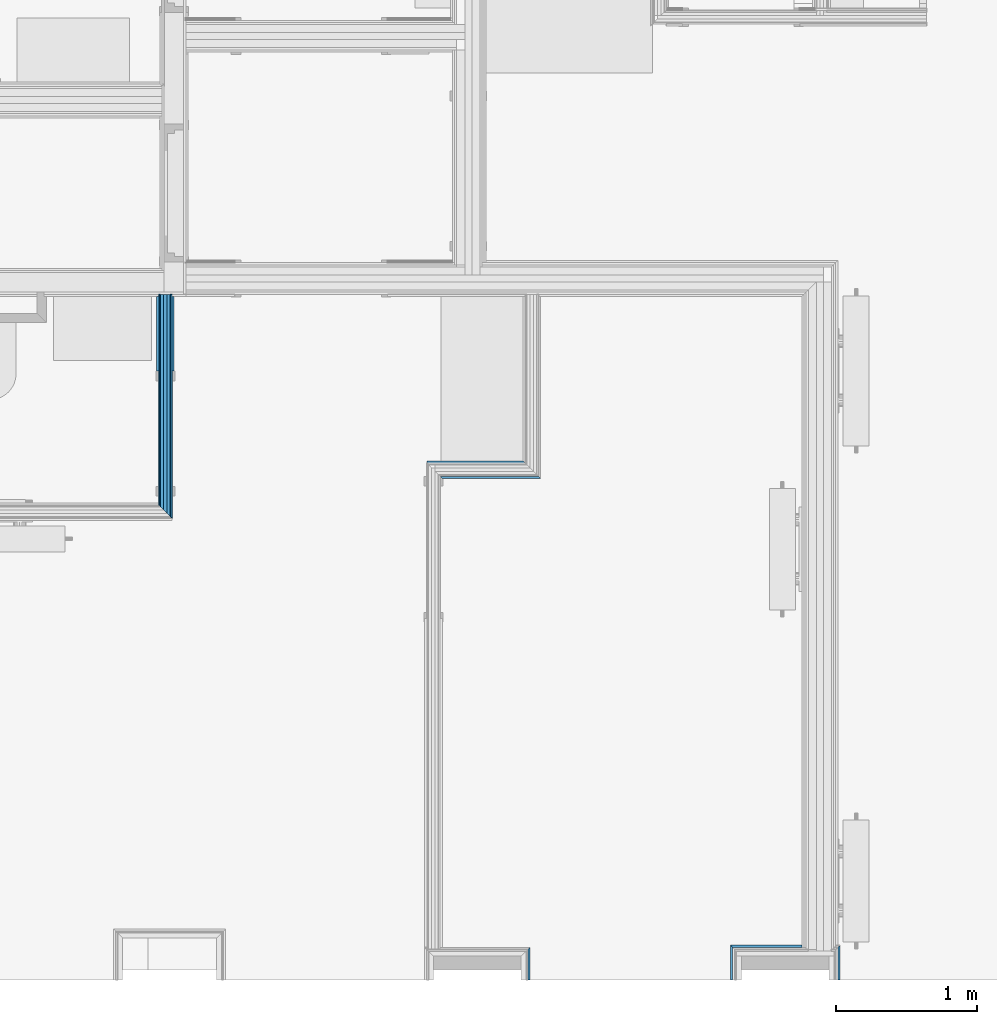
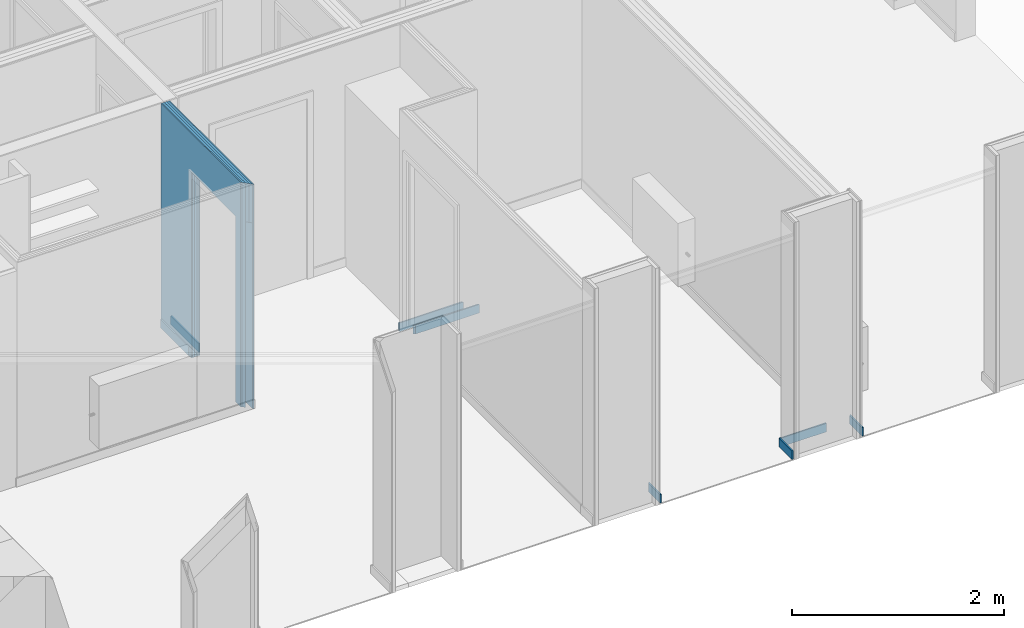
# One storey, part 37 of 85: 13 building element parts, 1 opening, 6 elements without a shape of their own.
"""IFC2X3 building model written with IfcOpenShell, lengths in metres."""

from ifc_helpers import new_model, entity, si_unit, converted_unit, derived_unit, money_unit, direction, frame, frame_2d, origin_with_axes, place, context, subcontext, project, spatial, polyline, rectangle, outline, extrude, material, type_object, element, aggregate, save


model = new_model("IFC2X3")

# Units and contexts
model_context = context("Model", 3, precision=1e-05, world=origin_with_axes(), true_north=direction((0.0, 1.0)))
body_context = subcontext(model_context, "Body", "Model", "MODEL_VIEW", scale=1.0)
ifc_project = project(units=[si_unit("LENGTHUNIT", "METRE"), si_unit("AREAUNIT", "SQUARE_METRE"), si_unit("VOLUMEUNIT", "CUBIC_METRE"), si_unit("ABSORBEDDOSEUNIT", "GRAY"), si_unit("AMOUNTOFSUBSTANCEUNIT", "MOLE"), si_unit("DOSEEQUIVALENTUNIT", "SIEVERT"), si_unit("ELECTRICCAPACITANCEUNIT", "FARAD"), si_unit("ELECTRICCHARGEUNIT", "COULOMB"), si_unit("ELECTRICCONDUCTANCEUNIT", "SIEMENS"), si_unit("ELECTRICCURRENTUNIT", "AMPERE"), si_unit("ELECTRICRESISTANCEUNIT", "OHM"), si_unit("ELECTRICVOLTAGEUNIT", "VOLT"), si_unit("ENERGYUNIT", "JOULE"), si_unit("FORCEUNIT", "NEWTON"), si_unit("FREQUENCYUNIT", "HERTZ"), si_unit("ILLUMINANCEUNIT", "LUX"), si_unit("INDUCTANCEUNIT", "HENRY"), si_unit("LUMINOUSFLUXUNIT", "LUMEN"), si_unit("LUMINOUSINTENSITYUNIT", "CANDELA"), si_unit("MAGNETICFLUXDENSITYUNIT", "TESLA"), si_unit("MAGNETICFLUXUNIT", "WEBER"), si_unit("MASSUNIT", "GRAM"), converted_unit("PLANEANGLEUNIT", "degree", entity("IfcReal", 0.0174532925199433), si_unit("PLANEANGLEUNIT", "RADIAN"), dimensions=[0, 0, 0, 0, 0, 0, 0]), si_unit("POWERUNIT", "WATT"), si_unit("PRESSUREUNIT", "PASCAL"), si_unit("RADIOACTIVITYUNIT", "BECQUEREL"), si_unit("SOLIDANGLEUNIT", "STERADIAN"), si_unit("THERMODYNAMICTEMPERATUREUNIT", "KELVIN"), si_unit("TIMEUNIT", "SECOND"), derived_unit("ACCELERATIONUNIT", [(si_unit("LENGTHUNIT", "METRE"), 1), (si_unit("TIMEUNIT", "SECOND"), -2)]), derived_unit("ANGULARVELOCITYUNIT", [(converted_unit("PLANEANGLEUNIT", "degree", entity("IfcReal", 0.0174532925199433), si_unit("PLANEANGLEUNIT", "RADIAN"), dimensions=[0, 0, 0, 0, 0, 0, 0]), 1), (si_unit("TIMEUNIT", "SECOND"), -1)]), derived_unit("CURVATUREUNIT", [(converted_unit("PLANEANGLEUNIT", "degree", entity("IfcReal", 0.0174532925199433), si_unit("PLANEANGLEUNIT", "RADIAN"), dimensions=[0, 0, 0, 0, 0, 0, 0]), 1), (si_unit("LENGTHUNIT", "METRE"), -1)]), derived_unit("DYNAMICVISCOSITYUNIT", [(si_unit("PRESSUREUNIT", "PASCAL"), 1), (si_unit("TIMEUNIT", "SECOND"), 1)]), derived_unit("HEATFLUXDENSITYUNIT", [(si_unit("POWERUNIT", "WATT"), 1), (si_unit("LENGTHUNIT", "METRE"), -2)]), derived_unit("HEATINGVALUEUNIT", [(si_unit("ENERGYUNIT", "JOULE"), 1), (si_unit("MASSUNIT", "GRAM"), -1)]), derived_unit("INTEGERCOUNTRATEUNIT", [(si_unit("TIMEUNIT", "SECOND"), -1)]), derived_unit("IONCONCENTRATIONUNIT", [(si_unit("MASSUNIT", "GRAM"), 1), (si_unit("VOLUMEUNIT", "CUBIC_METRE"), -1)]), derived_unit("ISOTHERMALMOISTURECAPACITYUNIT", [(si_unit("VOLUMEUNIT", "CUBIC_METRE"), 1), (si_unit("MASSUNIT", "GRAM"), -1)]), derived_unit("KINEMATICVISCOSITYUNIT", [(si_unit("AREAUNIT", "SQUARE_METRE"), 1), (si_unit("TIMEUNIT", "SECOND"), -1)]), derived_unit("LINEARFORCEUNIT", [(si_unit("FORCEUNIT", "NEWTON"), 1), (si_unit("LENGTHUNIT", "METRE"), -1)]), derived_unit("LINEARMOMENTUNIT", [(si_unit("FORCEUNIT", "NEWTON"), 1), (si_unit("LENGTHUNIT", "METRE"), -1)]), derived_unit("LINEARSTIFFNESSUNIT", [(si_unit("FORCEUNIT", "NEWTON"), 1), (si_unit("LENGTHUNIT", "METRE"), -1)]), derived_unit("LINEARVELOCITYUNIT", [(si_unit("LENGTHUNIT", "METRE"), 1), (si_unit("TIMEUNIT", "SECOND"), -1)]), derived_unit("LUMINOUSINTENSITYDISTRIBUTIONUNIT", [(si_unit("LUMINOUSINTENSITYUNIT", "CANDELA"), 1), (si_unit("LUMINOUSFLUXUNIT", "LUMEN"), -1)]), derived_unit("MASSDENSITYUNIT", [(si_unit("MASSUNIT", "GRAM"), 1), (si_unit("VOLUMEUNIT", "CUBIC_METRE"), -1)]), derived_unit("MASSFLOWRATEUNIT", [(si_unit("MASSUNIT", "GRAM"), 1), (si_unit("TIMEUNIT", "SECOND"), -1)]), derived_unit("MASSPERLENGTHUNIT", [(si_unit("MASSUNIT", "GRAM"), 1), (si_unit("LENGTHUNIT", "METRE"), -1)]), derived_unit("MODULUSOFELASTICITYUNIT", [(si_unit("FORCEUNIT", "NEWTON"), 1), (si_unit("AREAUNIT", "SQUARE_METRE"), -1)]), derived_unit("MODULUSOFLINEARSUBGRADEREACTIONUNIT", [(si_unit("FORCEUNIT", "NEWTON"), 1), (si_unit("LENGTHUNIT", "METRE"), -2)]), derived_unit("MODULUSOFROTATIONALSUBGRADEREACTIONUNIT", [(si_unit("FORCEUNIT", "NEWTON"), 1), (si_unit("LENGTHUNIT", "METRE"), 1)]), derived_unit("MODULUSOFSUBGRADEREACTIONUNIT", [(si_unit("FORCEUNIT", "NEWTON"), 1), (si_unit("VOLUMEUNIT", "CUBIC_METRE"), -1)]), derived_unit("MOISTUREDIFFUSIVITYUNIT", [(si_unit("VOLUMEUNIT", "CUBIC_METRE"), 1), (si_unit("TIMEUNIT", "SECOND"), -1)]), derived_unit("MOLECULARWEIGHTUNIT", [(si_unit("MASSUNIT", "GRAM"), 1), (si_unit("AMOUNTOFSUBSTANCEUNIT", "MOLE"), -1)]), derived_unit("PLANARFORCEUNIT", [(si_unit("FORCEUNIT", "NEWTON"), 1), (si_unit("LENGTHUNIT", "METRE"), -2)]), derived_unit("ROTATIONALFREQUENCYUNIT", [(si_unit("TIMEUNIT", "SECOND"), -1)]), derived_unit("ROTATIONALMASSUNIT", [(si_unit("MASSUNIT", "GRAM"), 1), (si_unit("LENGTHUNIT", "METRE"), 2)]), derived_unit("ROTATIONALSTIFFNESSUNIT", [(si_unit("FORCEUNIT", "NEWTON"), 1), (si_unit("LENGTHUNIT", "METRE"), 1), (converted_unit("PLANEANGLEUNIT", "degree", entity("IfcReal", 0.0174532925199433), si_unit("PLANEANGLEUNIT", "RADIAN"), dimensions=[0, 0, 0, 0, 0, 0, 0]), -1)]), derived_unit("SECTIONAREAINTEGRALUNIT", [(si_unit("LENGTHUNIT", "METRE"), 5)]), derived_unit("SECTIONMODULUSUNIT", [(si_unit("LENGTHUNIT", "METRE"), 3)]), derived_unit("SHEARMODULUSUNIT", [(si_unit("FORCEUNIT", "NEWTON"), 1), (si_unit("AREAUNIT", "SQUARE_METRE"), -1)]), derived_unit("SOUNDPOWERUNIT", [(si_unit("ENERGYUNIT", "JOULE"), 1), (si_unit("TIMEUNIT", "SECOND"), -1)]), derived_unit("SPECIFICHEATCAPACITYUNIT", [(si_unit("FORCEUNIT", "NEWTON"), 1), (si_unit("MASSUNIT", "GRAM"), -1), (si_unit("THERMODYNAMICTEMPERATUREUNIT", "KELVIN"), -1)]), derived_unit("TEMPERATUREGRADIENTUNIT", [(si_unit("THERMODYNAMICTEMPERATUREUNIT", "KELVIN"), 1), (si_unit("LENGTHUNIT", "METRE"), -1)]), derived_unit("THERMALADMITTANCEUNIT", [(si_unit("POWERUNIT", "WATT"), 1), (si_unit("AREAUNIT", "SQUARE_METRE"), -1), (si_unit("THERMODYNAMICTEMPERATUREUNIT", "KELVIN"), -1)]), derived_unit("THERMALCONDUCTANCEUNIT", [(si_unit("POWERUNIT", "WATT"), 1), (si_unit("LENGTHUNIT", "METRE"), -1), (si_unit("THERMODYNAMICTEMPERATUREUNIT", "KELVIN"), -1)]), derived_unit("THERMALEXPANSIONCOEFFICIENTUNIT", [(si_unit("THERMODYNAMICTEMPERATUREUNIT", "KELVIN"), -1)]), derived_unit("THERMALRESISTANCEUNIT", [(si_unit("AREAUNIT", "SQUARE_METRE"), 1), (si_unit("POWERUNIT", "WATT"), -1)]), derived_unit("THERMALTRANSMITTANCEUNIT", [(si_unit("POWERUNIT", "WATT"), 1), (si_unit("AREAUNIT", "SQUARE_METRE"), -1), (si_unit("THERMODYNAMICTEMPERATUREUNIT", "KELVIN"), -1)]), derived_unit("TORQUEUNIT", [(si_unit("FORCEUNIT", "NEWTON"), 1), (si_unit("LENGTHUNIT", "METRE"), 1)]), derived_unit("VAPORPERMEABILITYUNIT", [(si_unit("MASSUNIT", "GRAM"), 1), (si_unit("TIMEUNIT", "SECOND"), -1)]), derived_unit("VOLUMETRICFLOWRATEUNIT", [(si_unit("VOLUMEUNIT", "CUBIC_METRE"), 1), (si_unit("TIMEUNIT", "SECOND"), -1)]), derived_unit("WARPINGCONSTANTUNIT", [(si_unit("LENGTHUNIT", "METRE"), 6)]), derived_unit("WARPINGMOMENTUNIT", [(si_unit("FORCEUNIT", "NEWTON"), 1), (si_unit("LENGTHUNIT", "METRE"), 2)]), money_unit("GBP")], contexts=[model_context])

# Site, building, storey
site_placement = place(None, origin_with_axes())
site = spatial("IfcSite", under=ifc_project, at=site_placement, Name="Site", CompositionType="ELEMENT")
building_placement = place(site_placement, origin_with_axes())
building = spatial("IfcBuilding", under=site, at=building_placement, Name="Building01", CompositionType="ELEMENT")
storey_placement = place(building_placement, frame((0.0, 0.0, 12.13), z_axis=(0.0, 0.0, 1.0), x_axis=(1.0, 0.0, 0.0)))
storey = spatial("IfcBuildingStorey", under=building, at=storey_placement, Name="3F", CompositionType="ELEMENT", Elevation=12.13)

# Wall, building element part
wall_type_1 = type_object("IfcWallType", Name="SHE_A-Walls_Type06d_ExternalWallInsulation_48mm", PredefinedType="NOTDEFINED")
wall_1_placement = place(storey_placement, frame((20.387, 0.27, 0.0), z_axis=(0.0, 0.0, 1.0), x_axis=(0.0, -1.0, 0.0)))
wall_1 = element("IfcWall", 1, at=wall_1_placement, inside=storey, type_object=wall_type_1, Name="6D", ObjectType="SHE_A-Walls_Type06d_ExternalWallInsulation_48mm")
ifc_material_1 = material(Name="A_BSUK_Walls_Timber")
building_element_part_1_placement = place(wall_1_placement, origin_with_axes())
building_element_part_1 = element("IfcBuildingElementPart", 2, at=building_element_part_1_placement, material=ifc_material_1, Name="3", context=body_context, shape_type="SweptSolid", body=[
    extrude(outline(polyline([(-0.063, 0.063), (-0.048, 0.048), (0.17, 0.048), (0.17, 0.063), (-0.063, 0.063)])), frame((0.0, 0.0, 0.015), z_axis=(0.0, 0.0, 1.0), x_axis=(1.0, 0.0, 0.0)), (0.0, 0.0, 1.0), 0.1),
])
aggregate(wall_1, [building_element_part_1])

# Wall, building element parts
wall_type_2 = type_object("IfcWallType", Name="SHE_A-Walls_Type05a_Partition_95mm_tall", PredefinedType="NOTDEFINED")
wall_2_placement = place(storey_placement, frame((19.775, 3.72, 0.0), z_axis=(0.0, 0.0, 1.0), x_axis=(1.0, 0.0, 0.0)))
wall_2 = element("IfcWall", 3, at=wall_2_placement, inside=storey, type_object=wall_type_2, Name="5A", ObjectType="SHE_A-Walls_Type05a_Partition_95mm_tall")
placement_1 = place(wall_2_placement, origin_with_axes())
building_element_part_2 = element("IfcBuildingElementPart", 4, at=placement_1, material=ifc_material_1, Name="1", context=body_context, shape_type="SweptSolid", body=[
    extrude(outline(polyline([(0.735, -0.035), (0.035, -0.035), (0.05, -0.05), (0.75, -0.05), (0.735, -0.035)])), frame((0.0, 0.0, 0.015), z_axis=(0.0, 0.0, 1.0), x_axis=(1.0, 0.0, 0.0)), (0.0, 0.0, 1.0), 0.1),
])
building_element_part_3 = element("IfcBuildingElementPart", 5, at=placement_1, material=ifc_material_1, Name="7", context=body_context, shape_type="SweptSolid", body=[
    extrude(outline(polyline([(0.625, 0.075), (-0.06, 0.075), (-0.06, 0.06), (0.64, 0.06), (0.625, 0.075)])), frame((0.0, 0.0, 0.015), z_axis=(0.0, 0.0, 1.0), x_axis=(1.0, 0.0, 0.0)), (0.0, 0.0, 1.0), 0.1),
])
aggregate(wall_2, [building_element_part_2, building_element_part_3])

# Wall, opening, building element parts
wall_3_placement = place(storey_placement, frame((17.8675, 4.98, 0.0), z_axis=(0.0, 0.0, 1.0), x_axis=(0.0, -1.0, 0.0)))
wall_3 = element("IfcWall", 6, at=wall_3_placement, inside=storey, type_object=wall_type_2, Name="5A", ObjectType="SHE_A-Walls_Type05a_Partition_95mm_tall")
opening_placement = place(wall_3_placement, frame((0.574219, -0.06, -0.015), z_axis=(0.0, 0.0, 1.0), x_axis=(1.0, 0.0, 0.0)))
element("IfcOpeningElement", 7, at=opening_placement, cuts=wall_3, Name="Opening", ObjectType="Recess", context=body_context, shape_type="SweptSolid", body=[
    extrude(rectangle(XDim=0.834, YDim=2.157, at=frame_2d((-0.417, 1.0785), x_axis=(-1.0, 0.0))), frame((0.0, 0.0, 0.0), z_axis=(0.0, 1.0, 0.0), x_axis=(-1.0, 0.0, 0.0)), (0.0, 0.0, 1.0), 0.095),
    extrude(outline(polyline([(0.0, 2.157), (-1.034, 2.157), (-1.034, 0.015), (-0.834, 0.015), (-0.834, 0.0), (0.0, 0.0), (0.0, 2.157)])), frame((0.0, 0.035, 0.0), z_axis=(0.0, 1.0, 0.0), x_axis=(-1.0, 0.0, 0.0)), (0.0, 0.0, 1.0), 0.025),
    extrude(outline(polyline([(0.0, 2.157), (-1.034, 2.157), (-1.034, 0.015), (-0.834, 0.015), (-0.834, 0.0), (0.0, 0.0), (0.0, 2.157)])), frame((0.0, 0.06, 0.0), z_axis=(0.0, 1.0, 0.0), x_axis=(-1.0, 0.0, 0.0)), (0.0, 0.0, 1.0), 0.023),
])
placement_2 = place(wall_3_placement, origin_with_axes())
building_element_part_4 = element("IfcBuildingElementPart", 8, at=placement_2, material=ifc_material_1, Name="1", context=body_context, shape_type="SweptSolid", body=[
    extrude(rectangle(XDim=0.015, YDim=0.532219, at=frame_2d((0.28111, -0.0675), x_axis=(0.0, -1.0))), frame((0.0, 0.0, 0.015), z_axis=(0.0, 0.0, 1.0), x_axis=(1.0, 0.0, 0.0)), (0.0, 0.0, 1.0), 0.1),
])
ifc_material_2 = material(Name="A_BSUK_WallInternal_Finishes_Plasterboard")
building_element_part_5 = element("IfcBuildingElementPart", 9, at=placement_2, material=ifc_material_2, Name="2", context=body_context, shape_type="SweptSolid", body=[
    extrude(outline(polyline([(1.512, -0.048), (0.0, -0.048), (0.0, -0.06), (1.5, -0.06), (1.512, -0.048)])), origin_with_axes(), (0.0, 0.0, 1.0), 2.59),
])
ifc_material_3 = material(Name="Air Cavity")
building_element_part_6 = element("IfcBuildingElementPart", 10, at=placement_2, material=ifc_material_3, Name="3", context=body_context, shape_type="SweptSolid", body=[
    extrude(outline(polyline([(1.535, -0.025), (0.0, -0.025), (0.0, -0.048), (1.512, -0.048), (1.535, -0.025)])), origin_with_axes(), (0.0, 0.0, 1.0), 2.59),
])
ifc_material_4 = material(Name="A_BSUK_Insulation")
building_element_part_7 = element("IfcBuildingElementPart", 11, at=placement_2, material=ifc_material_4, Name="4", context=body_context, shape_type="SweptSolid", body=[
    extrude(outline(polyline([(1.56, 0.0), (0.0, 0.0), (0.0, -0.025), (1.535, -0.025), (1.56, 0.0)])), origin_with_axes(), (0.0, 0.0, 1.0), 2.59),
])
building_element_part_8 = element("IfcBuildingElementPart", 12, at=placement_2, material=ifc_material_3, Name="5", context=body_context, shape_type="SweptSolid", body=[
    extrude(outline(polyline([(1.583, 0.023), (0.0, 0.023), (0.0, 0.0), (1.56, 0.0), (1.583, 0.023)])), origin_with_axes(), (0.0, 0.0, 1.0), 2.59),
])
building_element_part_9 = element("IfcBuildingElementPart", 13, at=placement_2, material=ifc_material_2, Name="6", context=body_context, shape_type="SweptSolid", body=[
    extrude(outline(polyline([(1.595, 0.035), (0.0, 0.035), (0.0, 0.023), (1.583, 0.023), (1.595, 0.035)])), origin_with_axes(), (0.0, 0.0, 1.0), 2.59),
])
building_element_part_10 = element("IfcBuildingElementPart", 14, at=placement_2, material=ifc_material_1, Name="7", context=body_context, shape_type="SweptSolid", body=[
    extrude(rectangle(XDim=0.015, YDim=0.532219, at=frame_2d((0.28111, 0.0425), x_axis=(0.0, -1.0))), frame((0.0, 0.0, 0.015), z_axis=(0.0, 0.0, 1.0), x_axis=(1.0, 0.0, 0.0)), (0.0, 0.0, 1.0), 0.1),
])
aggregate(wall_3, [building_element_part_4, building_element_part_5, building_element_part_6, building_element_part_7, building_element_part_8, building_element_part_9, building_element_part_10])

# Wall, building element part
wall_type_3 = type_object("IfcWallType", Name="SHE_A-Walls_Type06f_ExternalWallInsulation_48+15mm", PredefinedType="NOTDEFINED")
wall_4_placement = place(storey_placement, frame((21.953, 0.1, 0.0), z_axis=(0.0, 0.0, 1.0), x_axis=(0.0, -1.0, 0.0)))
wall_4 = element("IfcWall", 15, at=wall_4_placement, inside=storey, type_object=wall_type_3, Name="6F", ObjectType="SHE_A-Walls_Type06f_ExternalWallInsulation_48+15mm")
building_element_part_11_placement = place(wall_4_placement, origin_with_axes())
building_element_part_11 = element("IfcBuildingElementPart", 16, at=building_element_part_11_placement, material=ifc_material_1, Name="1", context=body_context, shape_type="SweptSolid", body=[
    extrude(outline(polyline([(-0.248, -0.078), (0.0, -0.078), (0.0, -0.063), (-0.233, -0.063), (-0.248, -0.078)])), frame((0.0, 0.0, 0.015), z_axis=(0.0, 0.0, 1.0), x_axis=(1.0, 0.0, 0.0)), (0.0, 0.0, 1.0), 0.1),
])
aggregate(wall_4, [building_element_part_11])

wall_5_placement = place(storey_placement, frame((22.577124, 0.1, 0.0), z_axis=(0.0, 0.0, 1.0), x_axis=(0.0, -1.0, 0.0)))
wall_5 = element("IfcWall", 17, at=wall_5_placement, inside=storey, type_object=wall_type_3, Name="6F", ObjectType="SHE_A-Walls_Type06f_ExternalWallInsulation_48+15mm")
building_element_part_12_placement = place(wall_5_placement, origin_with_axes())
building_element_part_12 = element("IfcBuildingElementPart", 18, at=building_element_part_12_placement, material=ifc_material_1, Name="4", context=body_context, shape_type="SweptSolid", body=[
    extrude(outline(polyline([(-0.233, 0.063), (0.0, 0.063), (0.0, 0.078), (-0.248, 0.078), (-0.233, 0.063)])), frame((0.0, 0.0, 0.015), z_axis=(0.0, 0.0, 1.0), x_axis=(1.0, 0.0, 0.0)), (0.0, 0.0, 1.0), 0.1),
])
aggregate(wall_5, [building_element_part_12])

wall_6_placement = place(storey_placement, frame((22.613124, 0.27, 0.0), z_axis=(0.0, 0.0, 1.0), x_axis=(-1.0, 0.0, 0.0)))
wall_6 = element("IfcWall", 19, at=wall_6_placement, inside=storey, type_object=wall_type_3, Name="6F", ObjectType="SHE_A-Walls_Type06f_ExternalWallInsulation_48+15mm")
building_element_part_13_placement = place(wall_6_placement, origin_with_axes())
building_element_part_13 = element("IfcBuildingElementPart", 20, at=building_element_part_13_placement, material=ifc_material_1, Name="2", context=body_context, shape_type="SweptSolid", body=[
    extrude(outline(polyline([(0.723124, -0.063), (0.228124, -0.063), (0.228124, -0.078), (0.738124, -0.078), (0.723124, -0.063)])), frame((0.0, 0.0, 0.015), z_axis=(0.0, 0.0, 1.0), x_axis=(1.0, 0.0, 0.0)), (0.0, 0.0, 1.0), 0.1),
])
aggregate(wall_6, [building_element_part_13])

save(model, "model.ifc")
